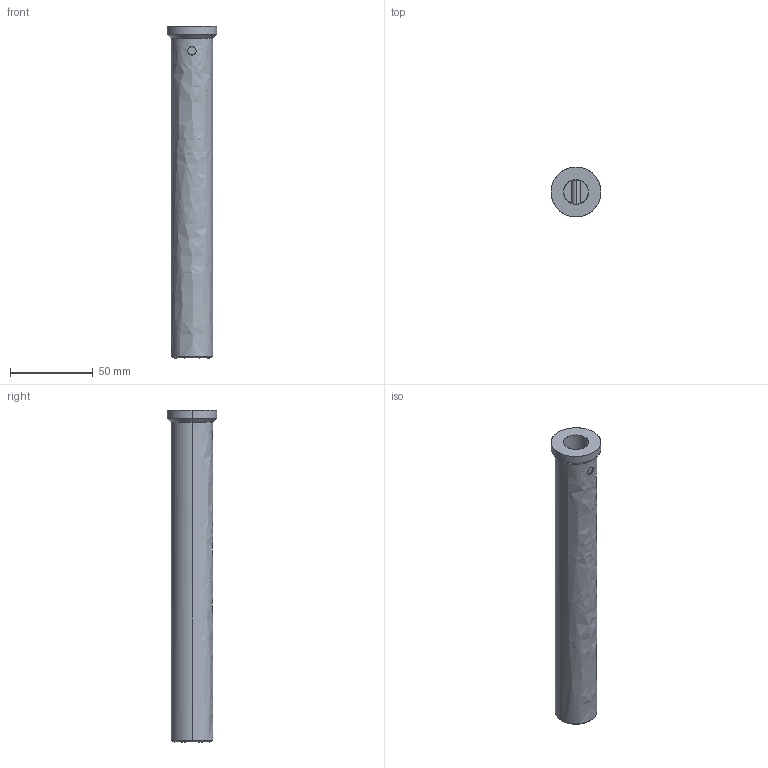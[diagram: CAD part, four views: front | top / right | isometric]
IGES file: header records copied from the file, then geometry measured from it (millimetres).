
Global section: file name: E:\UnigraphicsGraphicData\MISUMI_PRESS-PARTS\IGES\3d_lcup25-200_01346_r00.igs; native system: NX V5.0; preprocessor: UGS NX IGES V5.0; author: MISUMI; date: 20110105.161156; units: millimetre
Bounding box: 30 x 30 x 200 mm (x, y, z)
Surface area: 18831.3 mm2 (no closed solid volume)
Topology: 0 solids, 0 shells, 19 faces, 140 edges, 140 vertices
Faces by surface type: bspline 19
